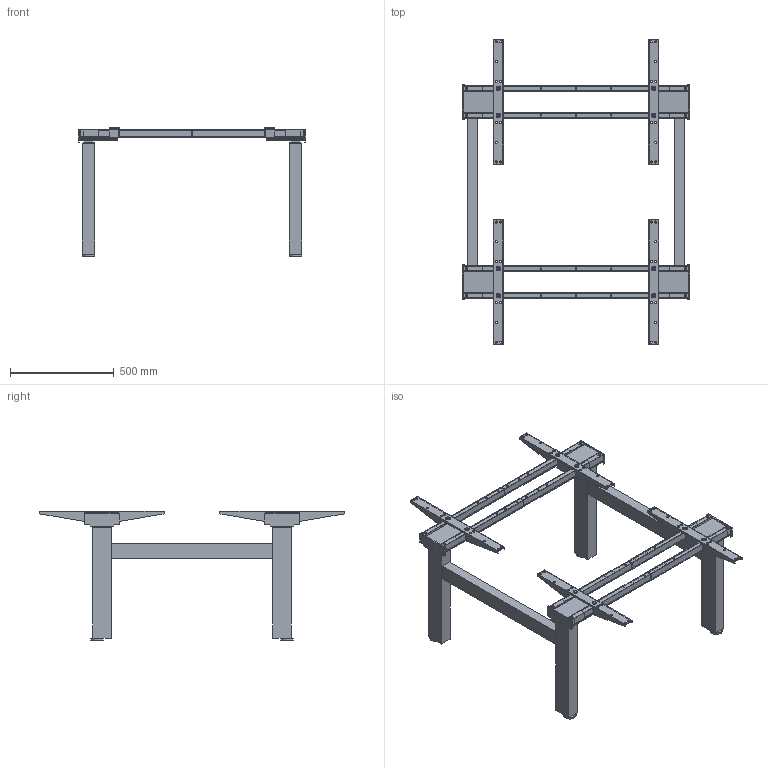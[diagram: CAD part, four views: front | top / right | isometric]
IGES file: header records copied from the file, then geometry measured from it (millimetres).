
Start section: Data from Parasolid IGES Translator 20.0.26, Copyright(c) 2006 Siemens P LM Software. All Rights Reserved.
Global section: file name: 9311397.igs; native system: By Siemens PLM Incorporated; preprocessor: XPlus GENERIC/IGES 20.0.26; author: Noname; organization: Noname; date: 20220302.125942; units: millimetre
Bounding box: 1100 x 1470 x 625 mm (x, y, z)
Surface area: 3676065 mm2 (no closed solid volume)
Topology: 0 solids, 0 shells, 772 faces, 3800 edges, 3504 vertices
Faces by surface type: extrusion 552, revolution 220
